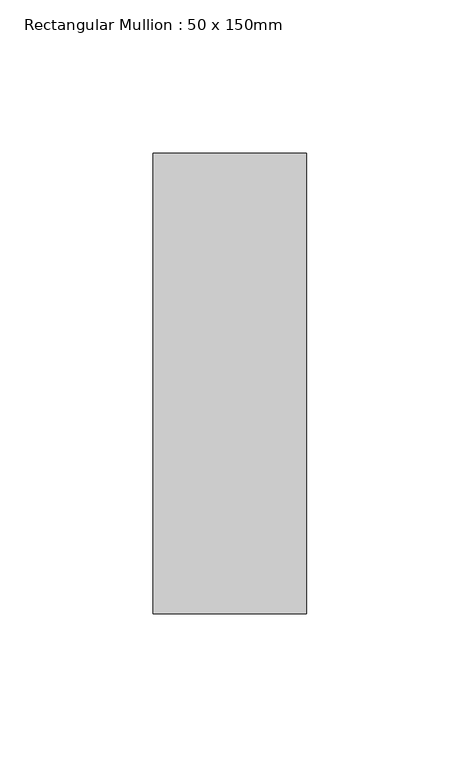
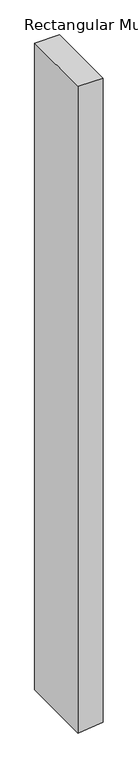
"""IFC4 building model written with IfcOpenShell, lengths in millimetres: member geometry, Rectangular Mullion : 50 x 150mm."""

from ifc_helpers import new_model, si_unit, frame, origin, place, context, project, spatial, polyline, outline, extrude, source, transform, mapped, element, save


def rectangular_mullion_50_x_150mm_f7330172(model_context):
    return source(origin(), model_context, "Body", "SweptSolid", [
        extrude(outline(polyline([(0.0, 25.0), (0.0, -25.0), (-1364.3034846, -25.0), (-1362.2927175, -5.0022633), (-1359.2759979, 25.0), (0.0, 25.0)])), frame((0.0, -75.0, 0.0), z_axis=(0.0, 1.0, 0.0), x_axis=(0.0, 0.0, 1.0)), (0.0, 0.0, 1.0), 150.0),
    ])


if __name__ == "__main__":
    model = new_model("IFC4")
    model_context = context("Model", 3, world=origin())
    ifc_project = project(units=[si_unit("LENGTHUNIT", "METRE", prefix="MILLI")], contexts=[model_context])
    site = spatial("IfcSite", under=ifc_project)
    building = spatial("IfcBuilding", under=site)
    placement = place(None, origin())
    rectangular_mullion_50_x_150mm_shape = rectangular_mullion_50_x_150mm_f7330172(model_context)
    element("IfcMember", 1, ObjectType="Rectangular Mullion : 50 x 150mm", at=placement, inside=building, context=model_context, shape_type="MappedRepresentation", body=[
        mapped(rectangular_mullion_50_x_150mm_shape, transform((0.0, 0.0, 0.0), x_axis=(1.0, 0.0, 0.0), y_axis=(0.0, 1.0, 0.0), z_axis=(0.0, 0.0, 1.0))),
    ])
    save(model, "model.ifc")
